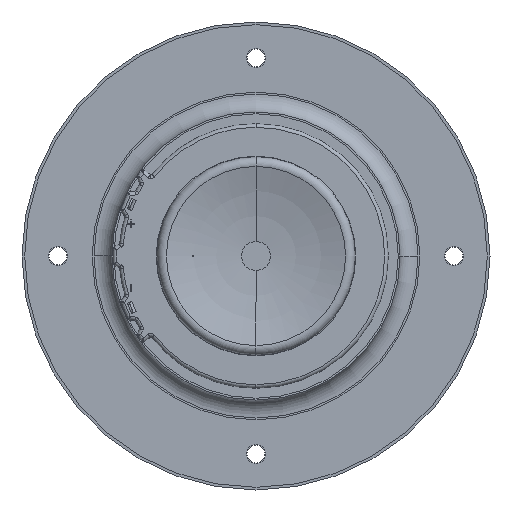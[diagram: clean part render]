
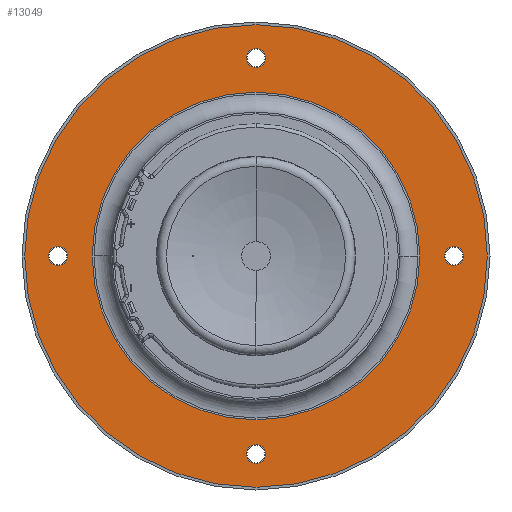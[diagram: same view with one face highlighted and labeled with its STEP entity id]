
A CAD part, front view. The second image highlights one B-rep face of the part: STEP entity #13049.
In plain terms, the highlighted planar face has unit normal (0, -1, 0).
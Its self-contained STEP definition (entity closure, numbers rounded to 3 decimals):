
#135 = ORIENTED_EDGE ( 'NONE', *, *, #3595, .F. ) ;
#543 = AXIS2_PLACEMENT_3D ( 'NONE', #2485, #11376, #16651 ) ;
#730 = VERTEX_POINT ( 'NONE', #9342 ) ;
#768 = CIRCLE ( 'NONE', #16114, 45.5 ) ;
#942 = CARTESIAN_POINT ( 'NONE',  ( -55., 37.7, 0. ) ) ;
#1183 = VERTEX_POINT ( 'NONE', #16563 ) ;
#1733 = CARTESIAN_POINT ( 'NONE',  ( 0., 37.7, 0. ) ) ;
#1789 = CARTESIAN_POINT ( 'NONE',  ( -55., 37.7, -2.65 ) ) ;
#1864 = FACE_BOUND ( 'NONE', #12694, .T. ) ;
#1890 = AXIS2_PLACEMENT_3D ( 'NONE', #20485, #2772, #6260 ) ;
#2213 = AXIS2_PLACEMENT_3D ( 'NONE', #14607, #21797, #16615 ) ;
#2341 = EDGE_LOOP ( 'NONE', ( #135, #5259 ) ) ;
#2485 = CARTESIAN_POINT ( 'NONE',  ( 0., 37.7, 0. ) ) ;
#2772 = DIRECTION ( 'NONE',  ( 0., 1., 0. ) ) ;
#2814 = AXIS2_PLACEMENT_3D ( 'NONE', #15593, #22745, #20888 ) ;
#2929 = DIRECTION ( 'NONE',  ( 0., 1., 0. ) ) ;
#2946 = CIRCLE ( 'NONE', #2213, 2.65 ) ;
#2952 = EDGE_CURVE ( 'NONE', #18625, #21119, #12602, .T. ) ;
#3142 = CARTESIAN_POINT ( 'NONE',  ( 0., 37.7, 64.25 ) ) ;
#3365 = EDGE_CURVE ( 'NONE', #21119, #18625, #2946, .T. ) ;
#3595 = EDGE_CURVE ( 'NONE', #21465, #12318, #3705, .T. ) ;
#3616 = CARTESIAN_POINT ( 'NONE',  ( 0., 37.7, 0. ) ) ;
#3705 = CIRCLE ( 'NONE', #14894, 64.25 ) ;
#3726 = FACE_OUTER_BOUND ( 'NONE', #2341, .T. ) ;
#4200 = EDGE_LOOP ( 'NONE', ( #11558, #19183 ) ) ;
#4430 = AXIS2_PLACEMENT_3D ( 'NONE', #20636, #2929, #8287 ) ;
#4535 = EDGE_CURVE ( 'NONE', #8629, #730, #19402, .T. ) ;
#4588 = CARTESIAN_POINT ( 'NONE',  ( 0., 37.7, 0. ) ) ;
#4776 = AXIS2_PLACEMENT_3D ( 'NONE', #942, #18618, #12970 ) ;
#5108 = CARTESIAN_POINT ( 'NONE',  ( 0., 37.7, -55. ) ) ;
#5130 = FACE_BOUND ( 'NONE', #4200, .T. ) ;
#5136 = CARTESIAN_POINT ( 'NONE',  ( -55., 37.7, 2.65 ) ) ;
#5259 = ORIENTED_EDGE ( 'NONE', *, *, #14698, .F. ) ;
#5400 = VERTEX_POINT ( 'NONE', #9834 ) ;
#5463 = FACE_BOUND ( 'NONE', #16776, .T. ) ;
#5580 = EDGE_CURVE ( 'NONE', #10565, #5400, #19072, .T. ) ;
#5830 = ORIENTED_EDGE ( 'NONE', *, *, #3365, .T. ) ;
#6260 = DIRECTION ( 'NONE',  ( 0., 0., -1. ) ) ;
#6791 = AXIS2_PLACEMENT_3D ( 'NONE', #14911, #16908, #15020 ) ;
#7250 = VERTEX_POINT ( 'NONE', #20957 ) ;
#7253 = CIRCLE ( 'NONE', #543, 45.5 ) ;
#8287 = DIRECTION ( 'NONE',  ( 0., 0., -1. ) ) ;
#8625 = FACE_BOUND ( 'NONE', #16061, .T. ) ;
#8629 = VERTEX_POINT ( 'NONE', #18345 ) ;
#8643 = DIRECTION ( 'NONE',  ( 0., 1., 0. ) ) ;
#9014 = CARTESIAN_POINT ( 'NONE',  ( 0., 37.7, 0. ) ) ;
#9155 = EDGE_CURVE ( 'NONE', #15529, #1183, #7253, .T. ) ;
#9342 = CARTESIAN_POINT ( 'NONE',  ( 0., 37.7, -52.35 ) ) ;
#9603 = EDGE_LOOP ( 'NONE', ( #13875, #18397 ) ) ;
#9834 = CARTESIAN_POINT ( 'NONE',  ( 55., 37.7, 2.65 ) ) ;
#9895 = AXIS2_PLACEMENT_3D ( 'NONE', #15690, #8643, #19332 ) ;
#10034 = DIRECTION ( 'NONE',  ( 0., 1., 0. ) ) ;
#10318 = ORIENTED_EDGE ( 'NONE', *, *, #18919, .T. ) ;
#10565 = VERTEX_POINT ( 'NONE', #17936 ) ;
#10655 = ORIENTED_EDGE ( 'NONE', *, *, #22041, .T. ) ;
#10847 = DIRECTION ( 'NONE',  ( 0., 0., -1. ) ) ;
#11364 = EDGE_CURVE ( 'NONE', #1183, #15529, #768, .T. ) ;
#11376 = DIRECTION ( 'NONE',  ( 0., 1., 0. ) ) ;
#11558 = ORIENTED_EDGE ( 'NONE', *, *, #11364, .T. ) ;
#12087 = AXIS2_PLACEMENT_3D ( 'NONE', #3616, #16145, #17659 ) ;
#12318 = VERTEX_POINT ( 'NONE', #20289 ) ;
#12447 = ORIENTED_EDGE ( 'NONE', *, *, #19742, .T. ) ;
#12473 = ORIENTED_EDGE ( 'NONE', *, *, #2952, .T. ) ;
#12579 = DIRECTION ( 'NONE',  ( 0., 1., 0. ) ) ;
#12602 = CIRCLE ( 'NONE', #4776, 2.65 ) ;
#12694 = EDGE_LOOP ( 'NONE', ( #10318, #16129 ) ) ;
#12722 = CIRCLE ( 'NONE', #13102, 2.65 ) ;
#12970 = DIRECTION ( 'NONE',  ( 0., 0., -1. ) ) ;
#13049 = ADVANCED_FACE ( 'NONE', ( #8625, #14233, #3726, #5130, #5463, #1864 ), #19677, .F. ) ;
#13102 = AXIS2_PLACEMENT_3D ( 'NONE', #5108, #10034, #17158 ) ;
#13875 = ORIENTED_EDGE ( 'NONE', *, *, #14620, .T. ) ;
#14233 = FACE_BOUND ( 'NONE', #9603, .T. ) ;
#14607 = CARTESIAN_POINT ( 'NONE',  ( -55., 37.7, 0. ) ) ;
#14608 = DIRECTION ( 'NONE',  ( 0., 1., 0. ) ) ;
#14620 = EDGE_CURVE ( 'NONE', #5400, #10565, #16980, .T. ) ;
#14698 = EDGE_CURVE ( 'NONE', #12318, #21465, #18880, .T. ) ;
#14894 = AXIS2_PLACEMENT_3D ( 'NONE', #1733, #12579, #10847 ) ;
#14911 = CARTESIAN_POINT ( 'NONE',  ( 0., 37.7, 55. ) ) ;
#15020 = DIRECTION ( 'NONE',  ( 0., 0., -1. ) ) ;
#15031 = CIRCLE ( 'NONE', #6791, 2.65 ) ;
#15343 = DIRECTION ( 'NONE',  ( 0., 0., -1. ) ) ;
#15425 = CARTESIAN_POINT ( 'NONE',  ( 0., 37.7, -45.5 ) ) ;
#15529 = VERTEX_POINT ( 'NONE', #15425 ) ;
#15551 = VERTEX_POINT ( 'NONE', #18944 ) ;
#15593 = CARTESIAN_POINT ( 'NONE',  ( 0., 37.7, 55. ) ) ;
#15690 = CARTESIAN_POINT ( 'NONE',  ( 55., 37.7, 0. ) ) ;
#16061 = EDGE_LOOP ( 'NONE', ( #12473, #5830 ) ) ;
#16114 = AXIS2_PLACEMENT_3D ( 'NONE', #4588, #22078, #15343 ) ;
#16129 = ORIENTED_EDGE ( 'NONE', *, *, #4535, .T. ) ;
#16145 = DIRECTION ( 'NONE',  ( 0., 1., 0. ) ) ;
#16563 = CARTESIAN_POINT ( 'NONE',  ( 0., 37.7, 45.5 ) ) ;
#16615 = DIRECTION ( 'NONE',  ( 0., 0., -1. ) ) ;
#16651 = DIRECTION ( 'NONE',  ( 0., 0., -1. ) ) ;
#16776 = EDGE_LOOP ( 'NONE', ( #10655, #12447 ) ) ;
#16908 = DIRECTION ( 'NONE',  ( 0., 1., 0. ) ) ;
#16980 = CIRCLE ( 'NONE', #9895, 2.65 ) ;
#17158 = DIRECTION ( 'NONE',  ( 0., 0., -1. ) ) ;
#17659 = DIRECTION ( 'NONE',  ( 0., 0., -1. ) ) ;
#17936 = CARTESIAN_POINT ( 'NONE',  ( 55., 37.7, -2.65 ) ) ;
#18143 = CIRCLE ( 'NONE', #2814, 2.65 ) ;
#18345 = CARTESIAN_POINT ( 'NONE',  ( 0., 37.7, -57.65 ) ) ;
#18397 = ORIENTED_EDGE ( 'NONE', *, *, #5580, .T. ) ;
#18618 = DIRECTION ( 'NONE',  ( 0., 1., 0. ) ) ;
#18625 = VERTEX_POINT ( 'NONE', #5136 ) ;
#18880 = CIRCLE ( 'NONE', #23018, 64.25 ) ;
#18919 = EDGE_CURVE ( 'NONE', #730, #8629, #12722, .T. ) ;
#18944 = CARTESIAN_POINT ( 'NONE',  ( 0., 37.7, 52.35 ) ) ;
#19072 = CIRCLE ( 'NONE', #1890, 2.65 ) ;
#19183 = ORIENTED_EDGE ( 'NONE', *, *, #9155, .T. ) ;
#19332 = DIRECTION ( 'NONE',  ( 0., 0., -1. ) ) ;
#19402 = CIRCLE ( 'NONE', #4430, 2.65 ) ;
#19677 = PLANE ( 'NONE',  #12087 ) ;
#19742 = EDGE_CURVE ( 'NONE', #15551, #7250, #15031, .T. ) ;
#19924 = DIRECTION ( 'NONE',  ( 0., 0., -1. ) ) ;
#20289 = CARTESIAN_POINT ( 'NONE',  ( 0., 37.7, -64.25 ) ) ;
#20485 = CARTESIAN_POINT ( 'NONE',  ( 55., 37.7, 0. ) ) ;
#20636 = CARTESIAN_POINT ( 'NONE',  ( 0., 37.7, -55. ) ) ;
#20888 = DIRECTION ( 'NONE',  ( 0., 0., -1. ) ) ;
#20957 = CARTESIAN_POINT ( 'NONE',  ( 0., 37.7, 57.65 ) ) ;
#21119 = VERTEX_POINT ( 'NONE', #1789 ) ;
#21465 = VERTEX_POINT ( 'NONE', #3142 ) ;
#21797 = DIRECTION ( 'NONE',  ( 0., 1., 0. ) ) ;
#22041 = EDGE_CURVE ( 'NONE', #7250, #15551, #18143, .T. ) ;
#22078 = DIRECTION ( 'NONE',  ( 0., 1., 0. ) ) ;
#22745 = DIRECTION ( 'NONE',  ( 0., 1., 0. ) ) ;
#23018 = AXIS2_PLACEMENT_3D ( 'NONE', #9014, #14608, #19924 ) ;
